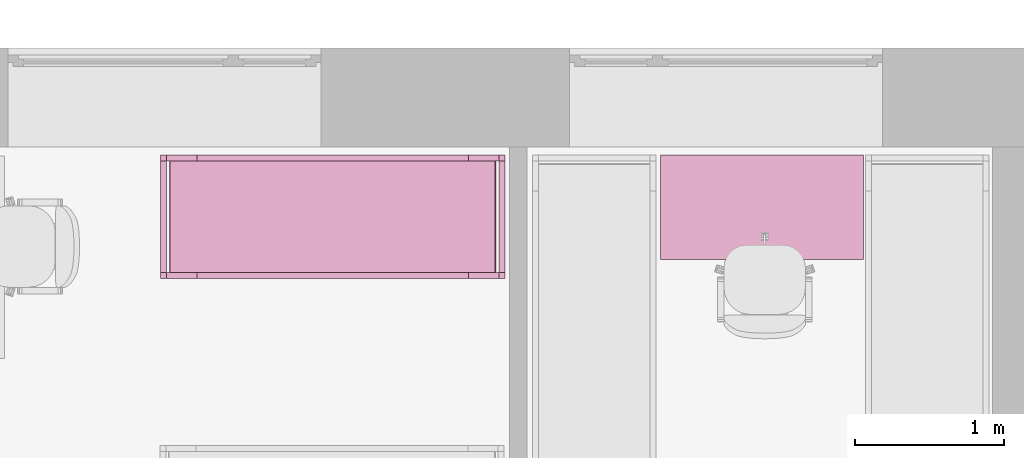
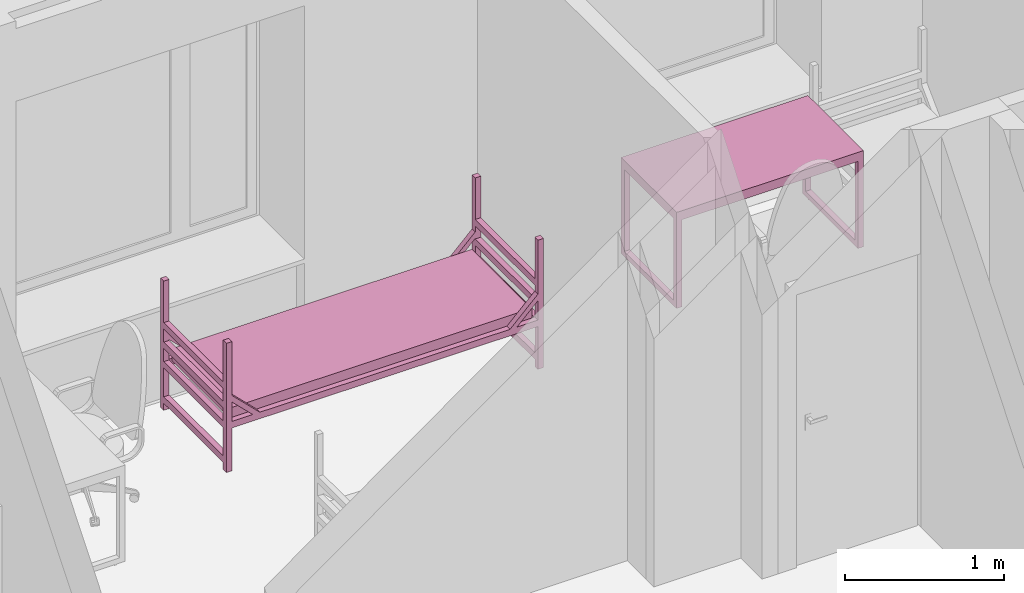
# One storey, part 45 of 46: 2 furnishings.
"""IFC2X3 building model written with IfcOpenShell, lengths in millimetres."""

from ifc_helpers import new_model, entity, si_unit, converted_unit, derived_unit, direction, frame, frame_2d, origin, place, context, subcontext, project, spatial, polyline, circle_curve, parameter, trimmed, segment, composite_curve, rectangle, outline, extrude, faceted_brep, source, transform, mapped, material, material_list, type_object, type_shapes, element, save


model = new_model("IFC2X3")

# Units and contexts
model_context = context("Model", 3, precision=0.01, world=origin(), true_north=direction((6.12303176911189e-17, 1.0)))
body_context = subcontext(model_context, "Body", "Model", "MODEL_VIEW")
ifc_project = project(units=[si_unit("LENGTHUNIT", "METRE", prefix="MILLI"), si_unit("AREAUNIT", "SQUARE_METRE"), si_unit("VOLUMEUNIT", "CUBIC_METRE"), converted_unit("PLANEANGLEUNIT", "DEGREE", entity("IfcRatioMeasure", 0.0174532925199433), si_unit("PLANEANGLEUNIT", "RADIAN"), dimensions=[0, 0, 0, 0, 0, 0, 0]), si_unit("MASSUNIT", "GRAM", prefix="KILO"), derived_unit("MASSDENSITYUNIT", [(si_unit("MASSUNIT", "GRAM", prefix="KILO"), 1), (si_unit("LENGTHUNIT", "METRE"), -3)]), si_unit("TIMEUNIT", "SECOND"), si_unit("FREQUENCYUNIT", "HERTZ"), si_unit("THERMODYNAMICTEMPERATUREUNIT", "DEGREE_CELSIUS"), derived_unit("THERMALTRANSMITTANCEUNIT", [(si_unit("MASSUNIT", "GRAM", prefix="KILO"), 1), (si_unit("THERMODYNAMICTEMPERATUREUNIT", "KELVIN"), -1), (si_unit("TIMEUNIT", "SECOND"), -3)]), derived_unit("VOLUMETRICFLOWRATEUNIT", [(si_unit("LENGTHUNIT", "METRE"), 3), (si_unit("TIMEUNIT", "SECOND"), -1)]), si_unit("ELECTRICCURRENTUNIT", "AMPERE"), si_unit("ELECTRICVOLTAGEUNIT", "VOLT"), si_unit("POWERUNIT", "WATT"), si_unit("FORCEUNIT", "NEWTON", prefix="KILO"), si_unit("ILLUMINANCEUNIT", "LUX"), si_unit("LUMINOUSFLUXUNIT", "LUMEN"), si_unit("LUMINOUSINTENSITYUNIT", "CANDELA"), derived_unit("USERDEFINED", [(si_unit("MASSUNIT", "GRAM", prefix="KILO"), -1), (si_unit("LENGTHUNIT", "METRE"), -2), (si_unit("TIMEUNIT", "SECOND"), 3), (si_unit("LUMINOUSFLUXUNIT", "LUMEN"), 1)]), derived_unit("LINEARVELOCITYUNIT", [(si_unit("LENGTHUNIT", "METRE"), 1), (si_unit("TIMEUNIT", "SECOND"), -1)]), si_unit("PRESSUREUNIT", "PASCAL"), derived_unit("USERDEFINED", [(si_unit("LENGTHUNIT", "METRE"), -2), (si_unit("MASSUNIT", "GRAM", prefix="KILO"), 1), (si_unit("TIMEUNIT", "SECOND"), -2)]), derived_unit("LINEARFORCEUNIT", [(si_unit("MASSUNIT", "GRAM", prefix="KILO"), 1), (si_unit("LENGTHUNIT", "METRE"), 1), (si_unit("TIMEUNIT", "SECOND"), -2), (si_unit("LENGTHUNIT", "METRE"), -1)]), derived_unit("PLANARFORCEUNIT", [(si_unit("MASSUNIT", "GRAM", prefix="KILO"), 1), (si_unit("LENGTHUNIT", "METRE"), 1), (si_unit("TIMEUNIT", "SECOND"), -2), (si_unit("LENGTHUNIT", "METRE"), -2)])], contexts=[model_context])

# Site, building, storey, space
site_placement = place(None, origin())
site = spatial("IfcSite", under=ifc_project, at=site_placement, Name="Default", CompositionType="ELEMENT")
building_placement = place(site_placement, origin())
building = spatial("IfcBuilding", under=site, at=building_placement, Name="SMA ARH", CompositionType="ELEMENT")
storey_placement = place(building_placement, origin())
storey = spatial("IfcBuildingStorey", under=building, at=storey_placement, Name="1 Korrus", CompositionType="ELEMENT", Elevation=0.0)
space_1_placement = place(storey_placement, origin())
space_1 = spatial("IfcSpace", under=storey, at=space_1_placement, Name="1-31", CompositionType="ELEMENT", InteriorOrExteriorSpace="INTERNAL")

# Furnishing
ifc_material_1 = material(Name="Madrats")
furniture_type_1 = type_object("IfcFurnitureType", Name="Kasarmu voodi ühekordne 2308x830:Kasarmu voodi ühekordne 2308x830", material=ifc_material_1)
shared_shape_1 = source(origin(), body_context, "Body", "SweptSolid", [
    extrude(rectangle(XDim=39.9999999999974, YDim=750.000000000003, at=frame_2d((-1.35003119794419e-13, -2.8421709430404e-14), x_axis=(1.0, 0.0))), frame((1.68638457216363, -1226.7969571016, 55.0), z_axis=(0.0, 0.0, 1.0), x_axis=(0.0, -1.0, 0.0)), (0.0, 0.0, 1.0), 49.9999999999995),
    extrude(rectangle(XDim=39.9999999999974, YDim=750.000000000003, at=frame_2d((-1.35003119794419e-13, -2.8421709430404e-14), x_axis=(1.0, 0.0))), frame((1.68638457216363, -1226.7969571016, 325.0), z_axis=(0.0, 0.0, 1.0), x_axis=(0.0, -1.0, 0.0)), (0.0, 0.0, 1.0), 49.9999999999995),
    extrude(rectangle(XDim=39.9999999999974, YDim=750.000000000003, at=frame_2d((-1.35003119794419e-13, -2.8421709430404e-14), x_axis=(1.0, 0.0))), frame((1.68638457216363, -1226.7969571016, 475.0), z_axis=(0.0, 0.0, 1.0), x_axis=(0.0, -1.0, 0.0)), (0.0, 0.0, 1.0), 49.9999999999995),
    extrude(rectangle(XDim=39.9999999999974, YDim=750.000000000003, at=frame_2d((-1.35003119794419e-13, -2.8421709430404e-14), x_axis=(1.0, 0.0))), frame((1.68638457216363, -1226.7969571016, 625.0), z_axis=(0.0, 0.0, 1.0), x_axis=(0.0, -1.0, 0.0)), (0.0, 0.0, 1.0), 50.0000000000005),
    extrude(rectangle(XDim=39.9999999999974, YDim=750.000000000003, at=frame_2d((1.35003119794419e-13, -2.8421709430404e-14), x_axis=(1.0, 0.0))), frame((1.68638457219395, 1041.2030428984, 55.0), z_axis=(0.0, 0.0, 1.0), x_axis=(0.0, -1.0, 0.0)), (0.0, 0.0, 1.0), 50.0000000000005),
    extrude(rectangle(XDim=39.9999999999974, YDim=750.000000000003, at=frame_2d((1.35003119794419e-13, -2.8421709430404e-14), x_axis=(1.0, 0.0))), frame((1.68638457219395, 1041.2030428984, 325.0), z_axis=(0.0, 0.0, 1.0), x_axis=(0.0, -1.0, 0.0)), (0.0, 0.0, 1.0), 50.0000000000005),
    extrude(rectangle(XDim=39.9999999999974, YDim=750.000000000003, at=frame_2d((1.35003119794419e-13, -2.8421709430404e-14), x_axis=(1.0, 0.0))), frame((1.68638457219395, 1041.2030428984, 475.0), z_axis=(0.0, 0.0, 1.0), x_axis=(0.0, -1.0, 0.0)), (0.0, 0.0, 1.0), 50.0000000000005),
    extrude(rectangle(XDim=39.9999999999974, YDim=750.000000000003, at=frame_2d((1.35003119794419e-13, -2.8421709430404e-14), x_axis=(1.0, 0.0))), frame((1.68638457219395, 1041.2030428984, 625.0), z_axis=(0.0, 0.0, 1.0), x_axis=(0.0, -1.0, 0.0)), (0.0, 0.0, 1.0), 49.9999999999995),
    extrude(outline(composite_curve([segment(trimmed(circle_curve(frame_2d((1085.0, -40.0), x_axis=(1.0, 0.0)), 10.0), [parameter(270.0)], [parameter(0.0)], True, "PARAMETER"), True, "CONTINUOUS"), segment(polyline([(1095.0, -40.0), (1095.0, 40.0)]), True, "CONTINUOUS"), segment(trimmed(circle_curve(frame_2d((1085.0, 40.0), x_axis=(1.0, 0.0)), 10.0), [parameter(0.0)], [parameter(90.0000000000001)], True, "PARAMETER"), True, "CONTINUOUS"), segment(polyline([(1085.0, 50.0), (-1085.0, 50.0)]), True, "CONTINUOUS"), segment(trimmed(circle_curve(frame_2d((-1085.0, 40.0), x_axis=(1.0, 0.0)), 10.0), [parameter(90.0000000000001)], [parameter(180.0)], True, "PARAMETER"), True, "CONTINUOUS"), segment(polyline([(-1095.0, 40.0), (-1095.0, -40.0)]), True, "CONTINUOUS"), segment(trimmed(circle_curve(frame_2d((-1085.0, -40.0), x_axis=(1.0, 0.0)), 10.0), [parameter(180.0)], [parameter(270.0)], True, "PARAMETER"), True, "CONTINUOUS"), segment(polyline([(-1085.0, -50.0), (1085.0, -50.0)]), True, "CONTINUOUS")], self_intersect=False)), frame((-373.313615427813, -92.7969571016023, 405.0), z_axis=(1.0, 0.0, 0.0), x_axis=(0.0, -1.0, 0.0)), (0.0, 0.0, 1.0), 750.000000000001),
    extrude(outline(polyline([(-1114.0, -100.0), (1114.0, -100.0), (1114.0, -50.0), (961.59199141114, -50.0), (1114.0, 100.0), (1114.0, 150.0), (910.789321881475, -50.0), (-910.789321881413, -50.0), (-1114.0, 150.0), (-1114.0, 100.0), (-961.591991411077, -50.0), (-1114.0, -50.0), (-1114.0, -100.0)])), frame((-413.313615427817, -92.7969571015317, 430.0), z_axis=(1.0, 0.0, 0.0), x_axis=(0.0, 1.0, 0.0)), (0.0, 0.0, 1.0), 39.9999999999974),
    extrude(outline(polyline([(-1114.0, -100.0), (1114.0, -100.0), (1114.0, -50.0), (961.591991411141, -50.0), (1114.0, 100.0), (1114.0, 150.0), (910.789321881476, -50.0), (-910.789321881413, -50.0), (-1114.0, 150.0), (-1114.0, 100.0), (-961.591991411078, -50.0), (-1114.0, -50.0), (-1114.0, -100.0)])), frame((376.686384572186, -92.796957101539, 430.0), z_axis=(1.0, 0.0, 0.0), x_axis=(0.0, 1.0, 0.0)), (0.0, 0.0, 1.0), 39.9999999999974),
    extrude(rectangle(XDim=39.9999999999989, YDim=39.9999999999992, at=frame_2d((-6.75015598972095e-14, 0.0), x_axis=(1.0, 0.0))), frame((396.686384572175, -1226.79695710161, 0.0), z_axis=(0.0, 0.0, 1.0), x_axis=(0.0, 1.0, 0.0)), (0.0, 0.0, 1.0), 995.0),
    extrude(rectangle(XDim=39.9999999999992, YDim=39.9999999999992, at=frame_2d((-1.35003119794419e-13, 0.0), x_axis=(1.0, 0.0))), frame((396.686384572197, 1041.20304289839, 0.0), z_axis=(0.0, 0.0, 1.0), x_axis=(0.0, 1.0, 0.0)), (0.0, 0.0, 1.0), 995.0),
    extrude(rectangle(XDim=40.0000000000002, YDim=39.9999999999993, at=frame_2d((-1.35003119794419e-13, 0.0), x_axis=(1.0, 0.0))), frame((-393.313615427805, 1041.2030428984, 0.0), z_axis=(0.0, 0.0, 1.0), x_axis=(0.0, 1.0, 0.0)), (0.0, 0.0, 1.0), 995.0),
    extrude(rectangle(XDim=39.9999999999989, YDim=39.9999999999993, at=frame_2d((-6.75015598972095e-14, 0.0), x_axis=(1.0, 0.0))), frame((-393.313615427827, -1226.7969571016, 0.0), z_axis=(0.0, 0.0, 1.0), x_axis=(0.0, 1.0, 0.0)), (0.0, 0.0, 1.0), 995.0),
])
type_shapes(furniture_type_1, [shared_shape_1])
furnishing_1_placement = place(space_1_placement, frame((33799.2030428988, 12030.0, 0.0), z_axis=(0.0, 0.0, 1.0), x_axis=(0.0, 1.0, 0.0)))
element("IfcFurnishingElement", 1, at=furnishing_1_placement, inside=space_1, type_object=furniture_type_1, material=ifc_material_1, Name="Kasarmu voodi ühekordne 2308x830:Kasarmu voodi ühekordne 2308x830", ObjectType="Kasarmu voodi ühekordne 2308x830:Kasarmu voodi ühekordne 2308x830", context=body_context, shape_type="MappedRepresentation", body=[
    mapped(shared_shape_1, transform((0.0, 0.0, 0.0), scale=1.0)),
])

# Space
space_2_placement = place(storey_placement, origin())
space_2 = spatial("IfcSpace", under=storey, at=space_2_placement, Name="1-33", CompositionType="ELEMENT", InteriorOrExteriorSpace="INTERNAL")

# Furnishing
ifc_material_2 = material(Name="<Unnamed>")
ifc_material_list = material_list([ifc_material_2, ifc_material_2])
furniture_type_2 = type_object("IfcFurnitureType", Name="kirjutuslaud 1360x700mm:kirjutuslaud 1360x700mm", material=ifc_material_list)
shared_shape_2 = source(origin(), body_context, "Body", "Brep", [
    faceted_brep([(680.0, -350.0, 720.0), (680.0, 350.0, 720.0), (680.0, 350.0, 750.0), (680.0, -350.0, 750.0), (-680.0, -350.0, 720.0), (-680.0, -350.0, 750.0), (-680.0, 350.0, 750.0), (-680.0, 350.0, 720.0)], [[[0, 1, 2, 3]], [[4, 5, 6, 7]], [[1, 0, 4, 7]], [[2, 1, 7, 6]], [[3, 2, 6, 5]], [[0, 3, 5, 4]]]),
    faceted_brep([(-640.0, -310.0, 680.0), (-640.0, 310.0, 680.0), (-640.0, 310.0, 720.0), (-640.0, -310.0, 720.0), (-680.0, -350.0, 720.0), (-680.0, 350.0, 720.0), (-680.0, 350.0, 10.0), (-680.0, -350.0, 10.0), (-680.0, 310.0, 680.0), (-680.0, -310.0, 680.0), (-680.0, -310.0, 50.0), (-680.0, 310.0, 50.0), (-640.0, -350.0, 10.0), (-640.0, -350.0, 680.0), (640.0, -350.0, 680.0), (640.0, -350.0, 10.0), (680.0, -350.0, 10.0), (680.0, -350.0, 720.0), (-640.0, 350.0, 10.0), (680.0, 350.0, 720.0), (680.0, 350.0, 10.0), (640.0, 350.0, 10.0), (640.0, 350.0, 680.0), (-640.0, 350.0, 680.0), (640.0, 310.0, 720.0), (640.0, -310.0, 720.0), (-640.0, 310.0, 50.0), (-640.0, -310.0, 50.0), (640.0, -310.0, 680.0), (640.0, 310.0, 680.0), (680.0, 310.0, 680.0), (680.0, 310.0, 50.0), (680.0, -310.0, 50.0), (680.0, -310.0, 680.0), (640.0, -310.0, 50.0), (640.0, 310.0, 50.0)], [[[0, 1, 2, 3]], [[4, 5, 6, 7], [8, 9, 10, 11]], [[4, 7, 12, 13, 14, 15, 16, 17]], [[18, 12, 7, 6]], [[6, 5, 19, 20, 21, 22, 23, 18]], [[19, 5, 4, 17], [2, 24, 25, 3]], [[26, 1, 8, 11]], [[27, 26, 11, 10]], [[0, 27, 10, 9]], [[1, 0, 9, 8]], [[14, 13, 0, 28]], [[24, 2, 1, 29]], [[3, 25, 28, 0]], [[17, 16, 20, 19], [30, 31, 32, 33]], [[21, 15, 14, 28, 34, 35, 29, 22]], [[20, 16, 15, 21]], [[31, 30, 29, 35]], [[32, 31, 35, 34]], [[33, 32, 34, 28]], [[30, 33, 28, 29]], [[29, 28, 25, 24]], [[29, 1, 23, 22]], [[12, 18, 23, 1, 26, 27, 0, 13]]]),
    faceted_brep([(-663.729456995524, -270.466136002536, 0.0), (-659.847171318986, -269.955023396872, 0.0), (-655.964885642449, -270.466136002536, 0.0), (-652.347171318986, -271.964642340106, 0.0), (-649.240569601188, -274.348421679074, 0.0), (-646.85679026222, -277.455023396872, 0.0), (-645.35828392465, -281.072737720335, 0.0), (-644.847171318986, -284.955023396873, 0.0), (-645.35828392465, -288.83730907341, 0.0), (-646.85679026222, -292.455023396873, 0.0), (-649.240569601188, -295.561625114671, 0.0), (-652.347171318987, -297.945404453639, 0.0), (-655.964885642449, -299.443910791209, 0.0), (-659.847171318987, -299.955023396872, 0.0), (-663.729456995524, -299.443910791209, 0.0), (-667.347171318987, -297.945404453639, 0.0), (-670.453773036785, -295.561625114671, 0.0), (-672.837552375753, -292.455023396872, 0.0), (-674.336058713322, -288.83730907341, 0.0), (-674.847171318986, -284.955023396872, 0.0), (-674.336058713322, -281.072737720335, 0.0), (-672.837552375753, -277.455023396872, 0.0), (-670.453773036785, -274.348421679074, 0.0), (-667.347171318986, -271.964642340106, 0.0), (-655.964885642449, -299.443910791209, 10.0), (-652.347171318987, -297.945404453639, 10.0), (-649.240569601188, -295.561625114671, 10.0), (-646.85679026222, -292.455023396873, 10.0), (-645.35828392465, -288.83730907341, 10.0), (-644.847171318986, -284.955023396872, 10.0), (-645.35828392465, -281.072737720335, 10.0), (-646.85679026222, -277.455023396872, 10.0), (-649.240569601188, -274.348421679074, 10.0), (-652.347171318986, -271.964642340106, 10.0), (-655.964885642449, -270.466136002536, 10.0), (-659.847171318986, -269.955023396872, 10.0), (-663.729456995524, -270.466136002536, 10.0), (-667.347171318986, -271.964642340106, 10.0), (-670.453773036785, -274.348421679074, 10.0), (-672.837552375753, -277.455023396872, 10.0), (-674.336058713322, -281.072737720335, 10.0), (-674.847171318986, -284.955023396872, 10.0), (-674.336058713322, -288.83730907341, 10.0), (-672.837552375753, -292.455023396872, 10.0), (-670.453773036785, -295.561625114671, 10.0), (-667.347171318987, -297.945404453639, 10.0), (-663.729456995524, -299.443910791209, 10.0), (-659.847171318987, -299.955023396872, 10.0)], [[[0, 1, 2, 3, 4, 5, 6, 7, 8, 9, 10, 11, 12, 13, 14, 15, 16, 17, 18, 19, 20, 21, 22, 23]], [[24, 25, 26, 27, 28, 29, 30, 31, 32, 33, 34, 35, 36, 37, 38, 39, 40, 41, 42, 43, 44, 45, 46, 47]], [[18, 42, 41, 19]], [[17, 43, 42, 18]], [[45, 44, 16, 15]], [[17, 16, 44, 43]], [[46, 45, 15, 14]], [[47, 46, 14, 13]], [[12, 24, 47, 13]], [[11, 25, 24, 12]], [[27, 26, 10, 9]], [[11, 10, 26, 25]], [[28, 27, 9, 8]], [[29, 28, 8, 7]], [[6, 30, 29, 7]], [[5, 31, 30, 6]], [[33, 32, 4, 3]], [[5, 4, 32, 31]], [[34, 33, 3, 2]], [[35, 34, 2, 1]], [[0, 36, 35, 1]], [[23, 37, 36, 0]], [[39, 38, 22, 21]], [[23, 22, 38, 37]], [[40, 39, 21, 20]], [[41, 40, 20, 19]]]),
    faceted_brep([(-655.964885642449, 270.466136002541, 10.0), (-652.347171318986, 271.964642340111, 10.0), (-649.240569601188, 274.348421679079, 10.0), (-646.85679026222, 277.455023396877, 10.0), (-645.35828392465, 281.07273772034, 10.0), (-644.847171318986, 284.955023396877, 10.0), (-645.35828392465, 288.837309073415, 10.0), (-646.85679026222, 292.455023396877, 10.0), (-649.240569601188, 295.561625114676, 10.0), (-652.347171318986, 297.945404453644, 10.0), (-655.964885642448, 299.443910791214, 10.0), (-659.847171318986, 299.955023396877, 10.0), (-663.729456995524, 299.443910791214, 10.0), (-667.347171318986, 297.945404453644, 10.0), (-670.453773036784, 295.561625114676, 10.0), (-672.837552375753, 292.455023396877, 10.0), (-674.336058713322, 288.837309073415, 10.0), (-674.847171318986, 284.955023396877, 10.0), (-674.336058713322, 281.07273772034, 10.0), (-672.837552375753, 277.455023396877, 10.0), (-670.453773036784, 274.348421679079, 10.0), (-667.347171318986, 271.964642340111, 10.0), (-663.729456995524, 270.466136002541, 10.0), (-659.847171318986, 269.955023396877, 10.0), (-655.964885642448, 299.443910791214, 0.0), (-652.347171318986, 297.945404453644, 0.0), (-649.240569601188, 295.561625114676, 0.0), (-646.85679026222, 292.455023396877, 0.0), (-645.35828392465, 288.837309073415, 0.0), (-644.847171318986, 284.955023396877, 0.0), (-645.35828392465, 281.07273772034, 0.0), (-646.85679026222, 277.455023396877, 0.0), (-649.240569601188, 274.348421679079, 0.0), (-652.347171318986, 271.964642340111, 0.0), (-655.964885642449, 270.466136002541, 0.0), (-659.847171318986, 269.955023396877, 0.0), (-663.729456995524, 270.466136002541, 0.0), (-667.347171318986, 271.964642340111, 0.0), (-670.453773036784, 274.348421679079, 0.0), (-672.837552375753, 277.455023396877, 0.0), (-674.336058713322, 281.07273772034, 0.0), (-674.847171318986, 284.955023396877, 0.0), (-674.336058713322, 288.837309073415, 0.0), (-672.837552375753, 292.455023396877, 0.0), (-670.453773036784, 295.561625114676, 0.0), (-667.347171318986, 297.945404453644, 0.0), (-663.729456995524, 299.443910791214, 0.0), (-659.847171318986, 299.955023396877, 0.0)], [[[0, 1, 2, 3, 4, 5, 6, 7, 8, 9, 10, 11, 12, 13, 14, 15, 16, 17, 18, 19, 20, 21, 22, 23]], [[24, 25, 26, 27, 28, 29, 30, 31, 32, 33, 34, 35, 36, 37, 38, 39, 40, 41, 42, 43, 44, 45, 46, 47]], [[40, 18, 17, 41]], [[39, 19, 18, 40]], [[21, 20, 38, 37]], [[39, 38, 20, 19]], [[22, 21, 37, 36]], [[23, 22, 36, 35]], [[34, 0, 23, 35]], [[33, 1, 0, 34]], [[3, 2, 32, 31]], [[33, 32, 2, 1]], [[4, 3, 31, 30]], [[5, 4, 30, 29]], [[28, 6, 5, 29]], [[27, 7, 6, 28]], [[9, 8, 26, 25]], [[27, 26, 8, 7]], [[10, 9, 25, 24]], [[11, 10, 24, 47]], [[46, 12, 11, 47]], [[45, 13, 12, 46]], [[15, 14, 44, 43]], [[45, 44, 14, 13]], [[16, 15, 43, 42]], [[17, 16, 42, 41]]]),
    faceted_brep([(656.270543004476, -270.466136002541, 0.0), (660.152828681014, -269.955023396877, 0.0), (664.035114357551, -270.466136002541, 0.0), (667.652828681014, -271.96464234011, 0.0), (670.759430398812, -274.348421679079, 0.0), (673.14320973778, -277.455023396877, 0.0), (674.64171607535, -281.072737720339, 0.0), (675.152828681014, -284.955023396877, 0.0), (674.64171607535, -288.837309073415, 0.0), (673.14320973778, -292.455023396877, 0.0), (670.759430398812, -295.561625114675, 0.0), (667.652828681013, -297.945404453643, 0.0), (664.035114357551, -299.443910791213, 0.0), (660.152828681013, -299.955023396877, 0.0), (656.270543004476, -299.443910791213, 0.0), (652.652828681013, -297.945404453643, 0.0), (649.546226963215, -295.561625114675, 0.0), (647.162447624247, -292.455023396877, 0.0), (645.663941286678, -288.837309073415, 0.0), (645.152828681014, -284.955023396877, 0.0), (645.663941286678, -281.072737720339, 0.0), (647.162447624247, -277.455023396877, 0.0), (649.546226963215, -274.348421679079, 0.0), (652.652828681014, -271.96464234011, 0.0), (664.035114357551, -299.443910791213, 10.0), (667.652828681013, -297.945404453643, 10.0), (670.759430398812, -295.561625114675, 10.0), (673.14320973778, -292.455023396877, 10.0), (674.64171607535, -288.837309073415, 10.0), (675.152828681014, -284.955023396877, 10.0), (674.64171607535, -281.072737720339, 10.0), (673.14320973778, -277.455023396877, 10.0), (670.759430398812, -274.348421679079, 10.0), (667.652828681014, -271.96464234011, 10.0), (664.035114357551, -270.466136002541, 10.0), (660.152828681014, -269.955023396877, 10.0), (656.270543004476, -270.466136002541, 10.0), (652.652828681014, -271.96464234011, 10.0), (649.546226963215, -274.348421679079, 10.0), (647.162447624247, -277.455023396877, 10.0), (645.663941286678, -281.072737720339, 10.0), (645.152828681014, -284.955023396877, 10.0), (645.663941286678, -288.837309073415, 10.0), (647.162447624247, -292.455023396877, 10.0), (649.546226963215, -295.561625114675, 10.0), (652.652828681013, -297.945404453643, 10.0), (656.270543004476, -299.443910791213, 10.0), (660.152828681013, -299.955023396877, 10.0)], [[[0, 1, 2, 3, 4, 5, 6, 7, 8, 9, 10, 11, 12, 13, 14, 15, 16, 17, 18, 19, 20, 21, 22, 23]], [[24, 25, 26, 27, 28, 29, 30, 31, 32, 33, 34, 35, 36, 37, 38, 39, 40, 41, 42, 43, 44, 45, 46, 47]], [[18, 42, 41, 19]], [[17, 43, 42, 18]], [[45, 44, 16, 15]], [[17, 16, 44, 43]], [[46, 45, 15, 14]], [[47, 46, 14, 13]], [[12, 24, 47, 13]], [[11, 25, 24, 12]], [[27, 26, 10, 9]], [[11, 10, 26, 25]], [[28, 27, 9, 8]], [[29, 28, 8, 7]], [[6, 30, 29, 7]], [[5, 31, 30, 6]], [[33, 32, 4, 3]], [[5, 4, 32, 31]], [[34, 33, 3, 2]], [[35, 34, 2, 1]], [[0, 36, 35, 1]], [[23, 37, 36, 0]], [[39, 38, 22, 21]], [[23, 22, 38, 37]], [[40, 39, 21, 20]], [[41, 40, 20, 19]]]),
    faceted_brep([(664.035114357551, 270.466136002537, 10.0), (667.652828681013, 271.964642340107, 10.0), (670.759430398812, 274.348421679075, 10.0), (673.14320973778, 277.455023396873, 10.0), (674.64171607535, 281.072737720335, 10.0), (675.152828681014, 284.955023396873, 10.0), (674.64171607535, 288.837309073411, 10.0), (673.14320973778, 292.455023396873, 10.0), (670.759430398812, 295.561625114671, 10.0), (667.652828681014, 297.94540445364, 10.0), (664.035114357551, 299.443910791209, 10.0), (660.152828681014, 299.955023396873, 10.0), (656.270543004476, 299.443910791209, 10.0), (652.652828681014, 297.94540445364, 10.0), (649.546226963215, 295.561625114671, 10.0), (647.162447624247, 292.455023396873, 10.0), (645.663941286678, 288.837309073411, 10.0), (645.152828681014, 284.955023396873, 10.0), (645.663941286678, 281.072737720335, 10.0), (647.162447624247, 277.455023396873, 10.0), (649.546226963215, 274.348421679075, 10.0), (652.652828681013, 271.964642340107, 10.0), (656.270543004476, 270.466136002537, 10.0), (660.152828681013, 269.955023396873, 10.0), (664.035114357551, 299.443910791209, 0.0), (667.652828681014, 297.94540445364, 0.0), (670.759430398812, 295.561625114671, 0.0), (673.14320973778, 292.455023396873, 0.0), (674.64171607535, 288.837309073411, 0.0), (675.152828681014, 284.955023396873, 0.0), (674.64171607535, 281.072737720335, 0.0), (673.14320973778, 277.455023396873, 0.0), (670.759430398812, 274.348421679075, 0.0), (667.652828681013, 271.964642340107, 0.0), (664.035114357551, 270.466136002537, 0.0), (660.152828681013, 269.955023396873, 0.0), (656.270543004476, 270.466136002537, 0.0), (652.652828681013, 271.964642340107, 0.0), (649.546226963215, 274.348421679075, 0.0), (647.162447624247, 277.455023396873, 0.0), (645.663941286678, 281.072737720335, 0.0), (645.152828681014, 284.955023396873, 0.0), (645.663941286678, 288.837309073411, 0.0), (647.162447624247, 292.455023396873, 0.0), (649.546226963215, 295.561625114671, 0.0), (652.652828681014, 297.94540445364, 0.0), (656.270543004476, 299.443910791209, 0.0), (660.152828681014, 299.955023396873, 0.0)], [[[0, 1, 2, 3, 4, 5, 6, 7, 8, 9, 10, 11, 12, 13, 14, 15, 16, 17, 18, 19, 20, 21, 22, 23]], [[24, 25, 26, 27, 28, 29, 30, 31, 32, 33, 34, 35, 36, 37, 38, 39, 40, 41, 42, 43, 44, 45, 46, 47]], [[40, 18, 17, 41]], [[39, 19, 18, 40]], [[21, 20, 38, 37]], [[39, 38, 20, 19]], [[22, 21, 37, 36]], [[23, 22, 36, 35]], [[34, 0, 23, 35]], [[33, 1, 0, 34]], [[3, 2, 32, 31]], [[33, 32, 2, 1]], [[4, 3, 31, 30]], [[5, 4, 30, 29]], [[28, 6, 5, 29]], [[27, 7, 6, 28]], [[9, 8, 26, 25]], [[27, 26, 8, 7]], [[10, 9, 25, 24]], [[11, 10, 24, 47]], [[46, 12, 11, 47]], [[45, 13, 12, 46]], [[15, 14, 44, 43]], [[45, 44, 14, 13]], [[16, 15, 43, 42]], [[17, 16, 42, 41]]]),
])
type_shapes(furniture_type_2, [shared_shape_2])
furnishing_2_placement = place(space_2_placement, frame((36770.6075367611, 12096.686384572, 0.0)))
element("IfcFurnishingElement", 2, at=furnishing_2_placement, inside=space_2, type_object=furniture_type_2, Name="kirjutuslaud 1360x700mm:kirjutuslaud 1360x700mm", ObjectType="kirjutuslaud 1360x700mm:kirjutuslaud 1360x700mm", context=body_context, shape_type="MappedRepresentation", body=[
    mapped(shared_shape_2, transform((0.0, 0.0, 0.0), scale=1.0)),
])

save(model, "model.ifc")
